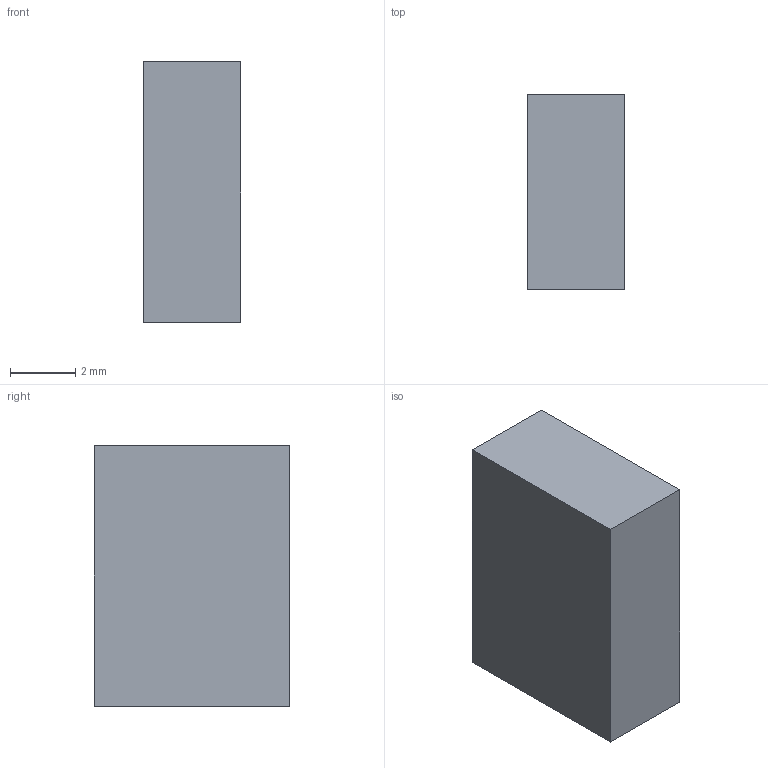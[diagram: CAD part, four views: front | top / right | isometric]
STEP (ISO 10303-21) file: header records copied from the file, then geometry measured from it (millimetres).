
FILE_DESCRIPTION(('Open CASCADE Model'),'2;1');
FILE_NAME('Open CASCADE Shape Model','2026-10-04T01:02:34',('Author'),( 'Open CASCADE'),'Open CASCADE STEP processor 8.0','Open CASCADE 8.0' ,'Unknown');
FILE_SCHEMA(('AUTOMOTIVE_DESIGN { 1 0 10303 214 1 1 1 1 }'));
Length unit declared in the file: millimetre
Products named in the file (1): Open CASCADE STEP translator 8.0 382
Bounding box: 3 x 6 x 8 mm (x, y, z)
Volume: 144 mm3; surface area: 180 mm2
Topology: 1 solids, 1 shells, 6 faces, 12 edges, 8 vertices
Faces by surface type: plane 6
Entity records: 322 total; most frequent: CARTESIAN_POINT 51, DIRECTION 50, LINE 36, VECTOR 36, ORIENTED_EDGE 24, PCURVE 24, DEFINITIONAL_REPRESENTATION 24, EDGE_CURVE 12
